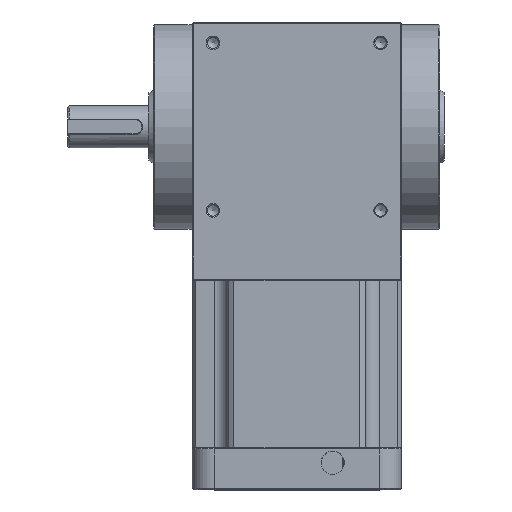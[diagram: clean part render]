
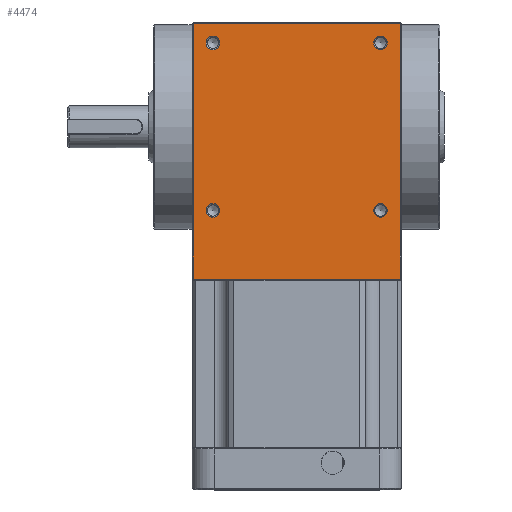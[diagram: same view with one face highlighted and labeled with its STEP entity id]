
A CAD part, top view. The second image highlights one B-rep face of the part: STEP entity #4474.
In plain terms, the highlighted planar face has unit normal (0, 0, 1).
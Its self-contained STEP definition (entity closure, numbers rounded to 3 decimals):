
#3802=CARTESIAN_POINT('',(44.5,-65.5,45.0));
#3803=VERTEX_POINT('',#3802);
#3858=CARTESIAN_POINT('',(44.5,44.5,45.0));
#3859=VERTEX_POINT('',#3858);
#3910=CARTESIAN_POINT('',(-44.5,-65.5,45.0));
#3911=VERTEX_POINT('',#3910);
#3942=CARTESIAN_POINT('',(-44.5,44.5,45.0));
#3943=VERTEX_POINT('',#3942);
#3995=CARTESIAN_POINT('',(-44.5,-65.5,45.0));
#3996=DIRECTION('',(0.0,1.0,0.0));
#3997=VECTOR('',#3996,110.0);
#3998=LINE('',#3995,#3997);
#3999=EDGE_CURVE('',#3911,#3943,#3998,.T.);
#4017=CARTESIAN_POINT('',(-44.5,44.5,45.0));
#4018=DIRECTION('',(1.0,0.0,0.0));
#4019=VECTOR('',#4018,89.);
#4020=LINE('',#4017,#4019);
#4021=EDGE_CURVE('',#3943,#3859,#4020,.T.);
#4067=CARTESIAN_POINT('',(44.5,-65.5,45.0));
#4068=DIRECTION('',(-1.0,0.0,0.0));
#4069=VECTOR('',#4068,89.);
#4070=LINE('',#4067,#4069);
#4071=EDGE_CURVE('',#3803,#3911,#4070,.T.);
#4089=CARTESIAN_POINT('',(44.5,44.5,45.0));
#4090=DIRECTION('',(0.0,-1.0,0.0));
#4091=VECTOR('',#4090,110.0);
#4092=LINE('',#4089,#4091);
#4093=EDGE_CURVE('',#3859,#3803,#4092,.T.);
#4419=CARTESIAN_POINT('',(0.,0.,45.0));
#4420=DIRECTION('',(0.0,0.0,1.0));
#4421=DIRECTION('',(1.0,0.0,0.0));
#4422=AXIS2_PLACEMENT_3D('',#4419,#4420,#4421);
#4423=PLANE('',#4422);
#4424=ORIENTED_EDGE('',*,*,#3999,.F.);
#4425=ORIENTED_EDGE('',*,*,#4071,.F.);
#4426=ORIENTED_EDGE('',*,*,#4093,.F.);
#4427=ORIENTED_EDGE('',*,*,#4021,.F.);
#4428=EDGE_LOOP('',(#4424,#4425,#4426,#4427));
#4429=FACE_OUTER_BOUND('',#4428,.T.);
#4430=CARTESIAN_POINT('',(33.042,-36.0,45.0));
#4431=VERTEX_POINT('',#4430);
#4432=CARTESIAN_POINT('',(36.,-36.0,45.0));
#4433=DIRECTION('',(0.0,0.0,1.0));
#4434=DIRECTION('',(1.0,0.0,0.0));
#4435=AXIS2_PLACEMENT_3D('',#4432,#4433,#4434);
#4436=CIRCLE('',#4435,2.958);
#4437=EDGE_CURVE('',#4431,#4431,#4436,.T.);
#4438=ORIENTED_EDGE('',*,*,#4437,.F.);
#4439=EDGE_LOOP('',(#4438));
#4440=FACE_BOUND('',#4439,.T.);
#4441=CARTESIAN_POINT('',(-33.042,-36.,45.0));
#4442=VERTEX_POINT('',#4441);
#4443=CARTESIAN_POINT('',(-36.,-36.,45.0));
#4444=DIRECTION('',(0.0,0.0,1.0));
#4445=DIRECTION('',(-1.0,0.0,0.0));
#4446=AXIS2_PLACEMENT_3D('',#4443,#4444,#4445);
#4447=CIRCLE('',#4446,2.958);
#4448=EDGE_CURVE('',#4442,#4442,#4447,.T.);
#4449=ORIENTED_EDGE('',*,*,#4448,.F.);
#4450=EDGE_LOOP('',(#4449));
#4451=FACE_BOUND('',#4450,.T.);
#4452=CARTESIAN_POINT('',(-33.042,36.,45.0));
#4453=VERTEX_POINT('',#4452);
#4454=CARTESIAN_POINT('',(-36.,36.,45.0));
#4455=DIRECTION('',(0.0,0.0,1.0));
#4456=DIRECTION('',(-1.0,0.0,0.0));
#4457=AXIS2_PLACEMENT_3D('',#4454,#4455,#4456);
#4458=CIRCLE('',#4457,2.958);
#4459=EDGE_CURVE('',#4453,#4453,#4458,.T.);
#4460=ORIENTED_EDGE('',*,*,#4459,.F.);
#4461=EDGE_LOOP('',(#4460));
#4462=FACE_BOUND('',#4461,.T.);
#4463=CARTESIAN_POINT('',(33.042,36.0,45.0));
#4464=VERTEX_POINT('',#4463);
#4465=CARTESIAN_POINT('',(36.,36.0,45.0));
#4466=DIRECTION('',(0.0,0.0,1.0));
#4467=DIRECTION('',(1.0,0.0,0.0));
#4468=AXIS2_PLACEMENT_3D('',#4465,#4466,#4467);
#4469=CIRCLE('',#4468,2.958);
#4470=EDGE_CURVE('',#4464,#4464,#4469,.T.);
#4471=ORIENTED_EDGE('',*,*,#4470,.F.);
#4472=EDGE_LOOP('',(#4471));
#4473=FACE_BOUND('',#4472,.T.);
#4474=ADVANCED_FACE('',(#4429,#4440,#4451,#4462,#4473),#4423,.T.);
